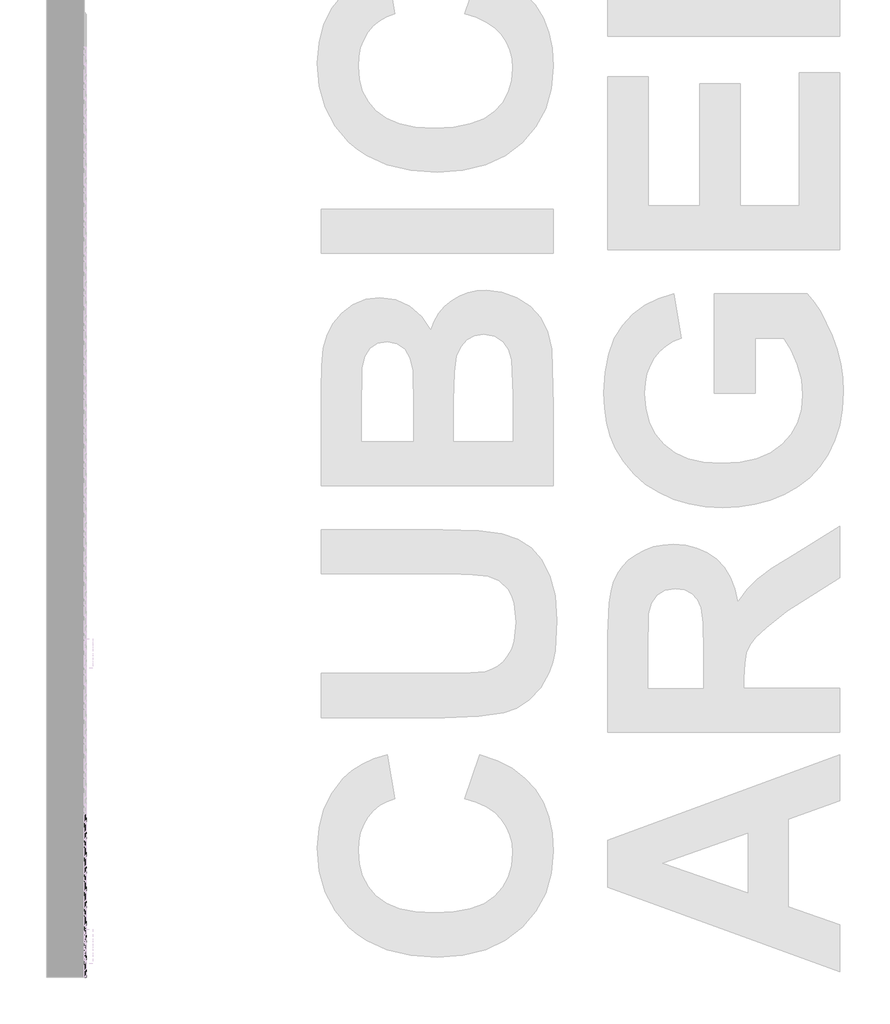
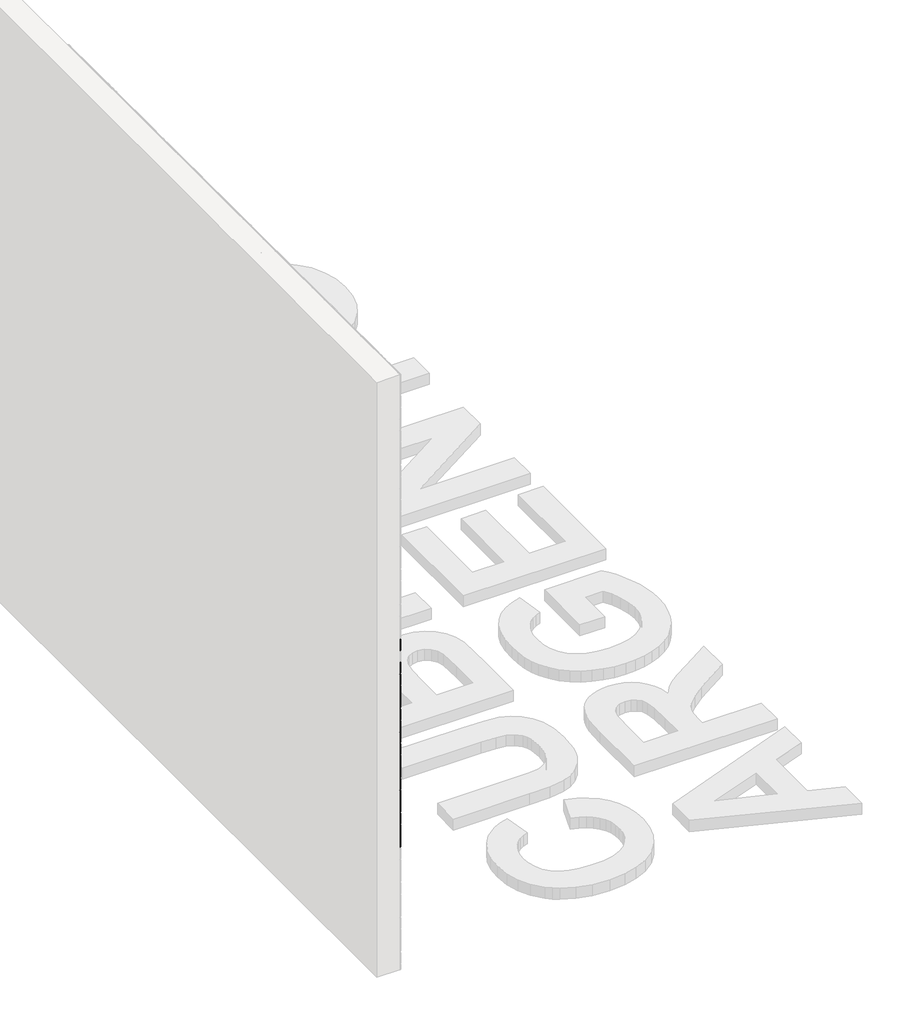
# One storey, part 2 of 121: 145 proxies.
"""IFC4 building model written with IfcOpenShell, lengths in millimetres."""

from ifc_helpers import new_model, si_unit, origin, place, context, project, spatial, transform, mapped, element, save
from components import generic_models_b2b2c5c1, generic_models_9bf73f6f, generic_models_5d175859, generic_models_45888c4d

model = new_model("IFC4")

# Units and contexts
model_context = context("Model", 3, world=origin())
ifc_project = project(units=[si_unit("LENGTHUNIT", "METRE", prefix="MILLI")], contexts=[model_context])

# Site, building, storey
site = spatial("IfcSite", under=ifc_project)
building = spatial("IfcBuilding", under=site)
storey = spatial("IfcBuildingStorey", under=building, Name="PORTOBELLO - SHOWROOM", Elevation=0.0)

# Proxies
placement = place(None, origin())
generic_models_shape = generic_models_b2b2c5c1(model_context)
element("IfcBuildingElementProxy", 1, Name="PBSHOP - CUBICA ARGENTO 4,8X8,3 : CUBICA ARGENTO - POSIÇÃO 01", ObjectType="PBSHOP - CUBICA ARGENTO 4,8X8,3 : CUBICA ARGENTO - POSIÇÃO 01", at=placement, inside=storey, context=model_context, shape_type="MappedRepresentation", body=[
    mapped(generic_models_shape, transform((150369.5341846, -6403.4522544, 670.8992738), x_axis=(0.0, 1.0, 0.0), y_axis=(0.0, 0.0, 1.0), z_axis=(1.0, 0.0, 0.0))),
])
element("IfcBuildingElementProxy", 2, Name="PBSHOP - CUBICA ARGENTO 4,8X8,3 : CUBICA ARGENTO - POSIÇÃO 01", ObjectType="PBSHOP - CUBICA ARGENTO 4,8X8,3 : CUBICA ARGENTO - POSIÇÃO 01", at=placement, inside=storey, context=model_context, shape_type="MappedRepresentation", body=[
    mapped(generic_models_shape, transform((150369.5341846, -6312.6129852, 670.8992738), x_axis=(0.0, 1.0, 0.0), y_axis=(0.0, 0.0, 1.0), z_axis=(1.0, 0.0, 0.0))),
])
element("IfcBuildingElementProxy", 3, Name="PBSHOP - CUBICA ARGENTO 4,8X8,3 : CUBICA ARGENTO - POSIÇÃO 01", ObjectType="PBSHOP - CUBICA ARGENTO 4,8X8,3 : CUBICA ARGENTO - POSIÇÃO 01", at=placement, inside=storey, context=model_context, shape_type="MappedRepresentation", body=[
    mapped(generic_models_shape, transform((150369.5341846, -6221.7737159, 670.8992738), x_axis=(0.0, 1.0, 0.0), y_axis=(0.0, 0.0, 1.0), z_axis=(1.0, 0.0, 0.0))),
])
element("IfcBuildingElementProxy", 4, Name="PBSHOP - CUBICA ARGENTO 4,8X8,3 : CUBICA ARGENTO - POSIÇÃO 01", ObjectType="PBSHOP - CUBICA ARGENTO 4,8X8,3 : CUBICA ARGENTO - POSIÇÃO 01", at=placement, inside=storey, context=model_context, shape_type="MappedRepresentation", body=[
    mapped(generic_models_shape, transform((150369.5341846, -6130.9344467, 670.8992738), x_axis=(0.0, 1.0, 0.0), y_axis=(0.0, 0.0, 1.0), z_axis=(1.0, 0.0, 0.0))),
])
element("IfcBuildingElementProxy", 5, Name="PBSHOP - CUBICA ARGENTO 4,8X8,3 : CUBICA ARGENTO - POSIÇÃO 01", ObjectType="PBSHOP - CUBICA ARGENTO 4,8X8,3 : CUBICA ARGENTO - POSIÇÃO 01", at=placement, inside=storey, context=model_context, shape_type="MappedRepresentation", body=[
    mapped(generic_models_shape, transform((150369.5341846, -6040.0951775, 670.8992738), x_axis=(0.0, 1.0, 0.0), y_axis=(0.0, 0.0, 1.0), z_axis=(1.0, 0.0, 0.0))),
])
element("IfcBuildingElementProxy", 6, Name="PBSHOP - CUBICA ARGENTO 4,8X8,3 : CUBICA ARGENTO - POSIÇÃO 01", ObjectType="PBSHOP - CUBICA ARGENTO 4,8X8,3 : CUBICA ARGENTO - POSIÇÃO 01", at=placement, inside=storey, context=model_context, shape_type="MappedRepresentation", body=[
    mapped(generic_models_shape, transform((150369.5341846, -6358.0326198, 749.8339122), x_axis=(0.0, 1.0, 0.0), y_axis=(0.0, 0.0, 1.0), z_axis=(1.0, 0.0, 0.0))),
])
element("IfcBuildingElementProxy", 7, Name="PBSHOP - CUBICA ARGENTO 4,8X8,3 : CUBICA ARGENTO - POSIÇÃO 01", ObjectType="PBSHOP - CUBICA ARGENTO 4,8X8,3 : CUBICA ARGENTO - POSIÇÃO 01", at=placement, inside=storey, context=model_context, shape_type="MappedRepresentation", body=[
    mapped(generic_models_shape, transform((150369.5341846, -6267.1933506, 749.8339122), x_axis=(0.0, 1.0, 0.0), y_axis=(0.0, 0.0, 1.0), z_axis=(1.0, 0.0, 0.0))),
])
element("IfcBuildingElementProxy", 8, Name="PBSHOP - CUBICA ARGENTO 4,8X8,3 : CUBICA ARGENTO - POSIÇÃO 01", ObjectType="PBSHOP - CUBICA ARGENTO 4,8X8,3 : CUBICA ARGENTO - POSIÇÃO 01", at=placement, inside=storey, context=model_context, shape_type="MappedRepresentation", body=[
    mapped(generic_models_shape, transform((150369.5341846, -6176.3540813, 749.8339122), x_axis=(0.0, 1.0, 0.0), y_axis=(0.0, 0.0, 1.0), z_axis=(1.0, 0.0, 0.0))),
])
element("IfcBuildingElementProxy", 9, Name="PBSHOP - CUBICA ARGENTO 4,8X8,3 : CUBICA ARGENTO - POSIÇÃO 01", ObjectType="PBSHOP - CUBICA ARGENTO 4,8X8,3 : CUBICA ARGENTO - POSIÇÃO 01", at=placement, inside=storey, context=model_context, shape_type="MappedRepresentation", body=[
    mapped(generic_models_shape, transform((150369.5341846, -6085.5148121, 749.8339122), x_axis=(0.0, 1.0, 0.0), y_axis=(0.0, 0.0, 1.0), z_axis=(1.0, 0.0, 0.0))),
])
element("IfcBuildingElementProxy", 10, Name="PBSHOP - CUBICA ARGENTO 4,8X8,3 : CUBICA ARGENTO - POSIÇÃO 01", ObjectType="PBSHOP - CUBICA ARGENTO 4,8X8,3 : CUBICA ARGENTO - POSIÇÃO 01", at=placement, inside=storey, context=model_context, shape_type="MappedRepresentation", body=[
    mapped(generic_models_shape, transform((150369.5341846, -6403.4522544, 828.7685506), x_axis=(0.0, 1.0, 0.0), y_axis=(0.0, 0.0, 1.0), z_axis=(1.0, 0.0, 0.0))),
])
element("IfcBuildingElementProxy", 11, Name="PBSHOP - CUBICA ARGENTO 4,8X8,3 : CUBICA ARGENTO - POSIÇÃO 01", ObjectType="PBSHOP - CUBICA ARGENTO 4,8X8,3 : CUBICA ARGENTO - POSIÇÃO 01", at=placement, inside=storey, context=model_context, shape_type="MappedRepresentation", body=[
    mapped(generic_models_shape, transform((150369.5341846, -6312.6129852, 828.7685506), x_axis=(0.0, 1.0, 0.0), y_axis=(0.0, 0.0, 1.0), z_axis=(1.0, 0.0, 0.0))),
])
element("IfcBuildingElementProxy", 12, Name="PBSHOP - CUBICA ARGENTO 4,8X8,3 : CUBICA ARGENTO - POSIÇÃO 01", ObjectType="PBSHOP - CUBICA ARGENTO 4,8X8,3 : CUBICA ARGENTO - POSIÇÃO 01", at=placement, inside=storey, context=model_context, shape_type="MappedRepresentation", body=[
    mapped(generic_models_shape, transform((150369.5341846, -6221.7737159, 828.7685506), x_axis=(0.0, 1.0, 0.0), y_axis=(0.0, 0.0, 1.0), z_axis=(1.0, 0.0, 0.0))),
])
element("IfcBuildingElementProxy", 13, Name="PBSHOP - CUBICA ARGENTO 4,8X8,3 : CUBICA ARGENTO - POSIÇÃO 01", ObjectType="PBSHOP - CUBICA ARGENTO 4,8X8,3 : CUBICA ARGENTO - POSIÇÃO 01", at=placement, inside=storey, context=model_context, shape_type="MappedRepresentation", body=[
    mapped(generic_models_shape, transform((150369.5341846, -6130.9344467, 828.7685506), x_axis=(0.0, 1.0, 0.0), y_axis=(0.0, 0.0, 1.0), z_axis=(1.0, 0.0, 0.0))),
])
element("IfcBuildingElementProxy", 14, Name="PBSHOP - CUBICA ARGENTO 4,8X8,3 : CUBICA ARGENTO - POSIÇÃO 01", ObjectType="PBSHOP - CUBICA ARGENTO 4,8X8,3 : CUBICA ARGENTO - POSIÇÃO 01", at=placement, inside=storey, context=model_context, shape_type="MappedRepresentation", body=[
    mapped(generic_models_shape, transform((150369.5341846, -6040.0951775, 828.7685506), x_axis=(0.0, 1.0, 0.0), y_axis=(0.0, 0.0, 1.0), z_axis=(1.0, 0.0, 0.0))),
])
element("IfcBuildingElementProxy", 15, Name="PBSHOP - CUBICA ARGENTO 4,8X8,3 : CUBICA ARGENTO - POSIÇÃO 01", ObjectType="PBSHOP - CUBICA ARGENTO 4,8X8,3 : CUBICA ARGENTO - POSIÇÃO 01", at=placement, inside=storey, context=model_context, shape_type="MappedRepresentation", body=[
    mapped(generic_models_shape, transform((150369.5341846, -6358.0326198, 907.7031889), x_axis=(0.0, 1.0, 0.0), y_axis=(0.0, 0.0, 1.0), z_axis=(1.0, 0.0, 0.0))),
])
element("IfcBuildingElementProxy", 16, Name="PBSHOP - CUBICA ARGENTO 4,8X8,3 : CUBICA ARGENTO - POSIÇÃO 01", ObjectType="PBSHOP - CUBICA ARGENTO 4,8X8,3 : CUBICA ARGENTO - POSIÇÃO 01", at=placement, inside=storey, context=model_context, shape_type="MappedRepresentation", body=[
    mapped(generic_models_shape, transform((150369.5341846, -6267.1933506, 907.7031889), x_axis=(0.0, 1.0, 0.0), y_axis=(0.0, 0.0, 1.0), z_axis=(1.0, 0.0, 0.0))),
])
element("IfcBuildingElementProxy", 17, Name="PBSHOP - CUBICA ARGENTO 4,8X8,3 : CUBICA ARGENTO - POSIÇÃO 01", ObjectType="PBSHOP - CUBICA ARGENTO 4,8X8,3 : CUBICA ARGENTO - POSIÇÃO 01", at=placement, inside=storey, context=model_context, shape_type="MappedRepresentation", body=[
    mapped(generic_models_shape, transform((150369.5341846, -6176.3540813, 907.7031889), x_axis=(0.0, 1.0, 0.0), y_axis=(0.0, 0.0, 1.0), z_axis=(1.0, 0.0, 0.0))),
])
element("IfcBuildingElementProxy", 18, Name="PBSHOP - CUBICA ARGENTO 4,8X8,3 : CUBICA ARGENTO - POSIÇÃO 01", ObjectType="PBSHOP - CUBICA ARGENTO 4,8X8,3 : CUBICA ARGENTO - POSIÇÃO 01", at=placement, inside=storey, context=model_context, shape_type="MappedRepresentation", body=[
    mapped(generic_models_shape, transform((150369.5341846, -6085.5148121, 907.7031889), x_axis=(0.0, 1.0, 0.0), y_axis=(0.0, 0.0, 1.0), z_axis=(1.0, 0.0, 0.0))),
])
element("IfcBuildingElementProxy", 19, Name="PBSHOP - CUBICA ARGENTO 4,8X8,3 : CUBICA ARGENTO - POSIÇÃO 01", ObjectType="PBSHOP - CUBICA ARGENTO 4,8X8,3 : CUBICA ARGENTO - POSIÇÃO 01", at=placement, inside=storey, context=model_context, shape_type="MappedRepresentation", body=[
    mapped(generic_models_shape, transform((150369.5341846, -6403.4522544, 986.6378273), x_axis=(0.0, 1.0, 0.0), y_axis=(0.0, 0.0, 1.0), z_axis=(1.0, 0.0, 0.0))),
])
element("IfcBuildingElementProxy", 20, Name="PBSHOP - CUBICA ARGENTO 4,8X8,3 : CUBICA ARGENTO - POSIÇÃO 01", ObjectType="PBSHOP - CUBICA ARGENTO 4,8X8,3 : CUBICA ARGENTO - POSIÇÃO 01", at=placement, inside=storey, context=model_context, shape_type="MappedRepresentation", body=[
    mapped(generic_models_shape, transform((150369.5341846, -6312.6129852, 986.6378273), x_axis=(0.0, 1.0, 0.0), y_axis=(0.0, 0.0, 1.0), z_axis=(1.0, 0.0, 0.0))),
])
element("IfcBuildingElementProxy", 21, Name="PBSHOP - CUBICA ARGENTO 4,8X8,3 : CUBICA ARGENTO - POSIÇÃO 01", ObjectType="PBSHOP - CUBICA ARGENTO 4,8X8,3 : CUBICA ARGENTO - POSIÇÃO 01", at=placement, inside=storey, context=model_context, shape_type="MappedRepresentation", body=[
    mapped(generic_models_shape, transform((150369.5341846, -6221.7737159, 986.6378273), x_axis=(0.0, 1.0, 0.0), y_axis=(0.0, 0.0, 1.0), z_axis=(1.0, 0.0, 0.0))),
])
element("IfcBuildingElementProxy", 22, Name="PBSHOP - CUBICA ARGENTO 4,8X8,3 : CUBICA ARGENTO - POSIÇÃO 01", ObjectType="PBSHOP - CUBICA ARGENTO 4,8X8,3 : CUBICA ARGENTO - POSIÇÃO 01", at=placement, inside=storey, context=model_context, shape_type="MappedRepresentation", body=[
    mapped(generic_models_shape, transform((150369.5341846, -6130.9344467, 986.6378273), x_axis=(0.0, 1.0, 0.0), y_axis=(0.0, 0.0, 1.0), z_axis=(1.0, 0.0, 0.0))),
])
element("IfcBuildingElementProxy", 23, Name="PBSHOP - CUBICA ARGENTO 4,8X8,3 : CUBICA ARGENTO - POSIÇÃO 01", ObjectType="PBSHOP - CUBICA ARGENTO 4,8X8,3 : CUBICA ARGENTO - POSIÇÃO 01", at=placement, inside=storey, context=model_context, shape_type="MappedRepresentation", body=[
    mapped(generic_models_shape, transform((150369.5341846, -6040.0951775, 986.6378273), x_axis=(0.0, 1.0, 0.0), y_axis=(0.0, 0.0, 1.0), z_axis=(1.0, 0.0, 0.0))),
])
element("IfcBuildingElementProxy", 24, Name="PBSHOP - CUBICA ARGENTO 4,8X8,3 : CUBICA ARGENTO - POSIÇÃO 01", ObjectType="PBSHOP - CUBICA ARGENTO 4,8X8,3 : CUBICA ARGENTO - POSIÇÃO 01", at=placement, inside=storey, context=model_context, shape_type="MappedRepresentation", body=[
    mapped(generic_models_shape, transform((150369.5341846, -6358.0326198, 1065.5724657), x_axis=(0.0, 1.0, 0.0), y_axis=(0.0, 0.0, 1.0), z_axis=(1.0, 0.0, 0.0))),
])
element("IfcBuildingElementProxy", 25, Name="PBSHOP - CUBICA ARGENTO 4,8X8,3 : CUBICA ARGENTO - POSIÇÃO 01", ObjectType="PBSHOP - CUBICA ARGENTO 4,8X8,3 : CUBICA ARGENTO - POSIÇÃO 01", at=placement, inside=storey, context=model_context, shape_type="MappedRepresentation", body=[
    mapped(generic_models_shape, transform((150369.5341846, -6267.1933506, 1065.5724657), x_axis=(0.0, 1.0, 0.0), y_axis=(0.0, 0.0, 1.0), z_axis=(1.0, 0.0, 0.0))),
])
element("IfcBuildingElementProxy", 26, Name="PBSHOP - CUBICA ARGENTO 4,8X8,3 : CUBICA ARGENTO - POSIÇÃO 01", ObjectType="PBSHOP - CUBICA ARGENTO 4,8X8,3 : CUBICA ARGENTO - POSIÇÃO 01", at=placement, inside=storey, context=model_context, shape_type="MappedRepresentation", body=[
    mapped(generic_models_shape, transform((150369.5341846, -6176.3540813, 1065.5724657), x_axis=(0.0, 1.0, 0.0), y_axis=(0.0, 0.0, 1.0), z_axis=(1.0, 0.0, 0.0))),
])
element("IfcBuildingElementProxy", 27, Name="PBSHOP - CUBICA ARGENTO 4,8X8,3 : CUBICA ARGENTO - POSIÇÃO 01", ObjectType="PBSHOP - CUBICA ARGENTO 4,8X8,3 : CUBICA ARGENTO - POSIÇÃO 01", at=placement, inside=storey, context=model_context, shape_type="MappedRepresentation", body=[
    mapped(generic_models_shape, transform((150369.5341846, -6085.5148121, 1065.5724657), x_axis=(0.0, 1.0, 0.0), y_axis=(0.0, 0.0, 1.0), z_axis=(1.0, 0.0, 0.0))),
])
element("IfcBuildingElementProxy", 28, Name="PBSHOP - CUBICA ARGENTO 4,8X8,3 : CUBICA ARGENTO - POSIÇÃO 01", ObjectType="PBSHOP - CUBICA ARGENTO 4,8X8,3 : CUBICA ARGENTO - POSIÇÃO 01", at=placement, inside=storey, context=model_context, shape_type="MappedRepresentation", body=[
    mapped(generic_models_shape, transform((150369.5341846, -6403.4522544, 1144.507104), x_axis=(0.0, 1.0, 0.0), y_axis=(0.0, 0.0, 1.0), z_axis=(1.0, 0.0, 0.0))),
])
element("IfcBuildingElementProxy", 29, Name="PBSHOP - CUBICA ARGENTO 4,8X8,3 : CUBICA ARGENTO - POSIÇÃO 01", ObjectType="PBSHOP - CUBICA ARGENTO 4,8X8,3 : CUBICA ARGENTO - POSIÇÃO 01", at=placement, inside=storey, context=model_context, shape_type="MappedRepresentation", body=[
    mapped(generic_models_shape, transform((150369.5341846, -6312.6129852, 1144.507104), x_axis=(0.0, 1.0, 0.0), y_axis=(0.0, 0.0, 1.0), z_axis=(1.0, 0.0, 0.0))),
])
element("IfcBuildingElementProxy", 30, Name="PBSHOP - CUBICA ARGENTO 4,8X8,3 : CUBICA ARGENTO - POSIÇÃO 01", ObjectType="PBSHOP - CUBICA ARGENTO 4,8X8,3 : CUBICA ARGENTO - POSIÇÃO 01", at=placement, inside=storey, context=model_context, shape_type="MappedRepresentation", body=[
    mapped(generic_models_shape, transform((150369.5341846, -6221.7737159, 1144.507104), x_axis=(0.0, 1.0, 0.0), y_axis=(0.0, 0.0, 1.0), z_axis=(1.0, 0.0, 0.0))),
])
element("IfcBuildingElementProxy", 31, Name="PBSHOP - CUBICA ARGENTO 4,8X8,3 : CUBICA ARGENTO - POSIÇÃO 01", ObjectType="PBSHOP - CUBICA ARGENTO 4,8X8,3 : CUBICA ARGENTO - POSIÇÃO 01", at=placement, inside=storey, context=model_context, shape_type="MappedRepresentation", body=[
    mapped(generic_models_shape, transform((150369.5341846, -6130.9344467, 1144.507104), x_axis=(0.0, 1.0, 0.0), y_axis=(0.0, 0.0, 1.0), z_axis=(1.0, 0.0, 0.0))),
])
element("IfcBuildingElementProxy", 32, Name="PBSHOP - CUBICA ARGENTO 4,8X8,3 : CUBICA ARGENTO - POSIÇÃO 01", ObjectType="PBSHOP - CUBICA ARGENTO 4,8X8,3 : CUBICA ARGENTO - POSIÇÃO 01", at=placement, inside=storey, context=model_context, shape_type="MappedRepresentation", body=[
    mapped(generic_models_shape, transform((150369.5341846, -6040.0951775, 1144.507104), x_axis=(0.0, 1.0, 0.0), y_axis=(0.0, 0.0, 1.0), z_axis=(1.0, 0.0, 0.0))),
])
element("IfcBuildingElementProxy", 33, Name="PBSHOP - CUBICA ARGENTO 4,8X8,3 : CUBICA ARGENTO - POSIÇÃO 01", ObjectType="PBSHOP - CUBICA ARGENTO 4,8X8,3 : CUBICA ARGENTO - POSIÇÃO 01", at=placement, inside=storey, context=model_context, shape_type="MappedRepresentation", body=[
    mapped(generic_models_shape, transform((150369.5341846, -6358.0326198, 1223.4417424), x_axis=(0.0, 1.0, 0.0), y_axis=(0.0, 0.0, 1.0), z_axis=(1.0, 0.0, 0.0))),
])
element("IfcBuildingElementProxy", 34, Name="PBSHOP - CUBICA ARGENTO 4,8X8,3 : CUBICA ARGENTO - POSIÇÃO 01", ObjectType="PBSHOP - CUBICA ARGENTO 4,8X8,3 : CUBICA ARGENTO - POSIÇÃO 01", at=placement, inside=storey, context=model_context, shape_type="MappedRepresentation", body=[
    mapped(generic_models_shape, transform((150369.5341846, -6267.1933506, 1223.4417424), x_axis=(0.0, 1.0, 0.0), y_axis=(0.0, 0.0, 1.0), z_axis=(1.0, 0.0, 0.0))),
])
element("IfcBuildingElementProxy", 35, Name="PBSHOP - CUBICA ARGENTO 4,8X8,3 : CUBICA ARGENTO - POSIÇÃO 01", ObjectType="PBSHOP - CUBICA ARGENTO 4,8X8,3 : CUBICA ARGENTO - POSIÇÃO 01", at=placement, inside=storey, context=model_context, shape_type="MappedRepresentation", body=[
    mapped(generic_models_shape, transform((150369.5341846, -6176.3540813, 1223.4417424), x_axis=(0.0, 1.0, 0.0), y_axis=(0.0, 0.0, 1.0), z_axis=(1.0, 0.0, 0.0))),
])
element("IfcBuildingElementProxy", 36, Name="PBSHOP - CUBICA ARGENTO 4,8X8,3 : CUBICA ARGENTO - POSIÇÃO 01", ObjectType="PBSHOP - CUBICA ARGENTO 4,8X8,3 : CUBICA ARGENTO - POSIÇÃO 01", at=placement, inside=storey, context=model_context, shape_type="MappedRepresentation", body=[
    mapped(generic_models_shape, transform((150369.5341846, -6085.5148121, 1223.4417424), x_axis=(0.0, 1.0, 0.0), y_axis=(0.0, 0.0, 1.0), z_axis=(1.0, 0.0, 0.0))),
])
element("IfcBuildingElementProxy", 37, Name="PBSHOP - CUBICA ARGENTO 4,8X8,3 : CUBICA ARGENTO - POSIÇÃO 01", ObjectType="PBSHOP - CUBICA ARGENTO 4,8X8,3 : CUBICA ARGENTO - POSIÇÃO 01", at=placement, inside=storey, context=model_context, shape_type="MappedRepresentation", body=[
    mapped(generic_models_shape, transform((150369.5341846, -6403.4522544, 1302.3763808), x_axis=(0.0, 1.0, 0.0), y_axis=(0.0, 0.0, 1.0), z_axis=(1.0, 0.0, 0.0))),
])
element("IfcBuildingElementProxy", 38, Name="PBSHOP - CUBICA ARGENTO 4,8X8,3 : CUBICA ARGENTO - POSIÇÃO 01", ObjectType="PBSHOP - CUBICA ARGENTO 4,8X8,3 : CUBICA ARGENTO - POSIÇÃO 01", at=placement, inside=storey, context=model_context, shape_type="MappedRepresentation", body=[
    mapped(generic_models_shape, transform((150369.5341846, -6312.6129852, 1302.3763808), x_axis=(0.0, 1.0, 0.0), y_axis=(0.0, 0.0, 1.0), z_axis=(1.0, 0.0, 0.0))),
])
element("IfcBuildingElementProxy", 39, Name="PBSHOP - CUBICA ARGENTO 4,8X8,3 : CUBICA ARGENTO - POSIÇÃO 01", ObjectType="PBSHOP - CUBICA ARGENTO 4,8X8,3 : CUBICA ARGENTO - POSIÇÃO 01", at=placement, inside=storey, context=model_context, shape_type="MappedRepresentation", body=[
    mapped(generic_models_shape, transform((150369.5341846, -6221.7737159, 1302.3763808), x_axis=(0.0, 1.0, 0.0), y_axis=(0.0, 0.0, 1.0), z_axis=(1.0, 0.0, 0.0))),
])
element("IfcBuildingElementProxy", 40, Name="PBSHOP - CUBICA ARGENTO 4,8X8,3 : CUBICA ARGENTO - POSIÇÃO 01", ObjectType="PBSHOP - CUBICA ARGENTO 4,8X8,3 : CUBICA ARGENTO - POSIÇÃO 01", at=placement, inside=storey, context=model_context, shape_type="MappedRepresentation", body=[
    mapped(generic_models_shape, transform((150369.5341846, -6130.9344467, 1302.3763808), x_axis=(0.0, 1.0, 0.0), y_axis=(0.0, 0.0, 1.0), z_axis=(1.0, 0.0, 0.0))),
])
element("IfcBuildingElementProxy", 41, Name="PBSHOP - CUBICA ARGENTO 4,8X8,3 : CUBICA ARGENTO - POSIÇÃO 01", ObjectType="PBSHOP - CUBICA ARGENTO 4,8X8,3 : CUBICA ARGENTO - POSIÇÃO 01", at=placement, inside=storey, context=model_context, shape_type="MappedRepresentation", body=[
    mapped(generic_models_shape, transform((150369.5341846, -6040.0951775, 1302.3763808), x_axis=(0.0, 1.0, 0.0), y_axis=(0.0, 0.0, 1.0), z_axis=(1.0, 0.0, 0.0))),
])
element("IfcBuildingElementProxy", 42, Name="PBSHOP - CUBICA ARGENTO 4,8X8,3 : CUBICA ARGENTO - POSIÇÃO 01", ObjectType="PBSHOP - CUBICA ARGENTO 4,8X8,3 : CUBICA ARGENTO - POSIÇÃO 01", at=placement, inside=storey, context=model_context, shape_type="MappedRepresentation", body=[
    mapped(generic_models_shape, transform((150369.5341846, -6358.0326198, 1381.3110192), x_axis=(0.0, 1.0, 0.0), y_axis=(0.0, 0.0, 1.0), z_axis=(1.0, 0.0, 0.0))),
])
element("IfcBuildingElementProxy", 43, Name="PBSHOP - CUBICA ARGENTO 4,8X8,3 : CUBICA ARGENTO - POSIÇÃO 01", ObjectType="PBSHOP - CUBICA ARGENTO 4,8X8,3 : CUBICA ARGENTO - POSIÇÃO 01", at=placement, inside=storey, context=model_context, shape_type="MappedRepresentation", body=[
    mapped(generic_models_shape, transform((150369.5341846, -6267.1933506, 1381.3110192), x_axis=(0.0, 1.0, 0.0), y_axis=(0.0, 0.0, 1.0), z_axis=(1.0, 0.0, 0.0))),
])
element("IfcBuildingElementProxy", 44, Name="PBSHOP - CUBICA ARGENTO 4,8X8,3 : CUBICA ARGENTO - POSIÇÃO 01", ObjectType="PBSHOP - CUBICA ARGENTO 4,8X8,3 : CUBICA ARGENTO - POSIÇÃO 01", at=placement, inside=storey, context=model_context, shape_type="MappedRepresentation", body=[
    mapped(generic_models_shape, transform((150369.5341846, -6176.3540813, 1381.3110192), x_axis=(0.0, 1.0, 0.0), y_axis=(0.0, 0.0, 1.0), z_axis=(1.0, 0.0, 0.0))),
])
element("IfcBuildingElementProxy", 45, Name="PBSHOP - CUBICA ARGENTO 4,8X8,3 : CUBICA ARGENTO - POSIÇÃO 01", ObjectType="PBSHOP - CUBICA ARGENTO 4,8X8,3 : CUBICA ARGENTO - POSIÇÃO 01", at=placement, inside=storey, context=model_context, shape_type="MappedRepresentation", body=[
    mapped(generic_models_shape, transform((150369.5341846, -6085.5148121, 1381.3110192), x_axis=(0.0, 1.0, 0.0), y_axis=(0.0, 0.0, 1.0), z_axis=(1.0, 0.0, 0.0))),
])
element("IfcBuildingElementProxy", 46, Name="PBSHOP - CUBICA ARGENTO 4,8X8,3 : CUBICA ARGENTO - POSIÇÃO 01", ObjectType="PBSHOP - CUBICA ARGENTO 4,8X8,3 : CUBICA ARGENTO - POSIÇÃO 01", at=placement, inside=storey, context=model_context, shape_type="MappedRepresentation", body=[
    mapped(generic_models_shape, transform((150369.5341846, -6403.4522544, 1460.2456575), x_axis=(0.0, 1.0, 0.0), y_axis=(0.0, 0.0, 1.0), z_axis=(1.0, 0.0, 0.0))),
])
generic_models_2_shape = generic_models_9bf73f6f(model_context)
element("IfcBuildingElementProxy", 47, Name="PBSHOP - CUBICA ARGENTO 4,8X8,3 : CUBICA ARGENTO - POSIÇÃO 03", ObjectType="PBSHOP - CUBICA ARGENTO 4,8X8,3 : CUBICA ARGENTO - POSIÇÃO 03", at=placement, inside=storey, context=model_context, shape_type="MappedRepresentation", body=[
    mapped(generic_models_2_shape, transform((150369.5341846, -6108.2224702, 552.4561058), x_axis=(0.0, 1.0, 0.0), y_axis=(0.0, 0.0, 1.0), z_axis=(1.0, 0.0, 0.0))),
])
element("IfcBuildingElementProxy", 48, Name="PBSHOP - CUBICA ARGENTO 4,8X8,3 : CUBICA ARGENTO - POSIÇÃO 03", ObjectType="PBSHOP - CUBICA ARGENTO 4,8X8,3 : CUBICA ARGENTO - POSIÇÃO 03", at=placement, inside=storey, context=model_context, shape_type="MappedRepresentation", body=[
    mapped(generic_models_2_shape, transform((150369.5341846, -6017.383201, 552.4561058), x_axis=(0.0, 1.0, 0.0), y_axis=(0.0, 0.0, 1.0), z_axis=(1.0, 0.0, 0.0))),
])
element("IfcBuildingElementProxy", 49, Name="PBSHOP - CUBICA ARGENTO 4,8X8,3 : CUBICA ARGENTO - POSIÇÃO 03", ObjectType="PBSHOP - CUBICA ARGENTO 4,8X8,3 : CUBICA ARGENTO - POSIÇÃO 03", at=placement, inside=storey, context=model_context, shape_type="MappedRepresentation", body=[
    mapped(generic_models_2_shape, transform((150369.5341846, -6335.3206433, 631.3907442), x_axis=(0.0, 1.0, 0.0), y_axis=(0.0, 0.0, 1.0), z_axis=(1.0, 0.0, 0.0))),
])
element("IfcBuildingElementProxy", 50, Name="PBSHOP - CUBICA ARGENTO 4,8X8,3 : CUBICA ARGENTO - POSIÇÃO 03", ObjectType="PBSHOP - CUBICA ARGENTO 4,8X8,3 : CUBICA ARGENTO - POSIÇÃO 03", at=placement, inside=storey, context=model_context, shape_type="MappedRepresentation", body=[
    mapped(generic_models_2_shape, transform((150369.5341846, -6244.4813741, 631.3907442), x_axis=(0.0, 1.0, 0.0), y_axis=(0.0, 0.0, 1.0), z_axis=(1.0, 0.0, 0.0))),
])
element("IfcBuildingElementProxy", 51, Name="PBSHOP - CUBICA ARGENTO 4,8X8,3 : CUBICA ARGENTO - POSIÇÃO 03", ObjectType="PBSHOP - CUBICA ARGENTO 4,8X8,3 : CUBICA ARGENTO - POSIÇÃO 03", at=placement, inside=storey, context=model_context, shape_type="MappedRepresentation", body=[
    mapped(generic_models_2_shape, transform((150369.5341846, -6153.6421048, 631.3907442), x_axis=(0.0, 1.0, 0.0), y_axis=(0.0, 0.0, 1.0), z_axis=(1.0, 0.0, 0.0))),
])
element("IfcBuildingElementProxy", 52, Name="PBSHOP - CUBICA ARGENTO 4,8X8,3 : CUBICA ARGENTO - POSIÇÃO 03", ObjectType="PBSHOP - CUBICA ARGENTO 4,8X8,3 : CUBICA ARGENTO - POSIÇÃO 03", at=placement, inside=storey, context=model_context, shape_type="MappedRepresentation", body=[
    mapped(generic_models_2_shape, transform((150369.5341846, -6062.8028356, 631.3907442), x_axis=(0.0, 1.0, 0.0), y_axis=(0.0, 0.0, 1.0), z_axis=(1.0, 0.0, 0.0))),
])
element("IfcBuildingElementProxy", 53, Name="PBSHOP - CUBICA ARGENTO 4,8X8,3 : CUBICA ARGENTO - POSIÇÃO 03", ObjectType="PBSHOP - CUBICA ARGENTO 4,8X8,3 : CUBICA ARGENTO - POSIÇÃO 03", at=placement, inside=storey, context=model_context, shape_type="MappedRepresentation", body=[
    mapped(generic_models_2_shape, transform((150369.5341846, -6380.740278, 710.3253826), x_axis=(0.0, 1.0, 0.0), y_axis=(0.0, 0.0, 1.0), z_axis=(1.0, 0.0, 0.0))),
])
element("IfcBuildingElementProxy", 54, Name="PBSHOP - CUBICA ARGENTO 4,8X8,3 : CUBICA ARGENTO - POSIÇÃO 03", ObjectType="PBSHOP - CUBICA ARGENTO 4,8X8,3 : CUBICA ARGENTO - POSIÇÃO 03", at=placement, inside=storey, context=model_context, shape_type="MappedRepresentation", body=[
    mapped(generic_models_2_shape, transform((150369.5341846, -6289.9010087, 710.3253826), x_axis=(0.0, 1.0, 0.0), y_axis=(0.0, 0.0, 1.0), z_axis=(1.0, 0.0, 0.0))),
])
element("IfcBuildingElementProxy", 55, Name="PBSHOP - CUBICA ARGENTO 4,8X8,3 : CUBICA ARGENTO - POSIÇÃO 03", ObjectType="PBSHOP - CUBICA ARGENTO 4,8X8,3 : CUBICA ARGENTO - POSIÇÃO 03", at=placement, inside=storey, context=model_context, shape_type="MappedRepresentation", body=[
    mapped(generic_models_2_shape, transform((150369.5341846, -6199.0617395, 710.3253826), x_axis=(0.0, 1.0, 0.0), y_axis=(0.0, 0.0, 1.0), z_axis=(1.0, 0.0, 0.0))),
])
element("IfcBuildingElementProxy", 56, Name="PBSHOP - CUBICA ARGENTO 4,8X8,3 : CUBICA ARGENTO - POSIÇÃO 03", ObjectType="PBSHOP - CUBICA ARGENTO 4,8X8,3 : CUBICA ARGENTO - POSIÇÃO 03", at=placement, inside=storey, context=model_context, shape_type="MappedRepresentation", body=[
    mapped(generic_models_2_shape, transform((150369.5341846, -6108.2224702, 710.3253826), x_axis=(0.0, 1.0, 0.0), y_axis=(0.0, 0.0, 1.0), z_axis=(1.0, 0.0, 0.0))),
])
element("IfcBuildingElementProxy", 57, Name="PBSHOP - CUBICA ARGENTO 4,8X8,3 : CUBICA ARGENTO - POSIÇÃO 03", ObjectType="PBSHOP - CUBICA ARGENTO 4,8X8,3 : CUBICA ARGENTO - POSIÇÃO 03", at=placement, inside=storey, context=model_context, shape_type="MappedRepresentation", body=[
    mapped(generic_models_2_shape, transform((150369.5341846, -6017.383201, 710.3253826), x_axis=(0.0, 1.0, 0.0), y_axis=(0.0, 0.0, 1.0), z_axis=(1.0, 0.0, 0.0))),
])
element("IfcBuildingElementProxy", 58, Name="PBSHOP - CUBICA ARGENTO 4,8X8,3 : CUBICA ARGENTO - POSIÇÃO 03", ObjectType="PBSHOP - CUBICA ARGENTO 4,8X8,3 : CUBICA ARGENTO - POSIÇÃO 03", at=placement, inside=storey, context=model_context, shape_type="MappedRepresentation", body=[
    mapped(generic_models_2_shape, transform((150369.5341846, -6335.3206433, 789.2600209), x_axis=(0.0, 1.0, 0.0), y_axis=(0.0, 0.0, 1.0), z_axis=(1.0, 0.0, 0.0))),
])
element("IfcBuildingElementProxy", 59, Name="PBSHOP - CUBICA ARGENTO 4,8X8,3 : CUBICA ARGENTO - POSIÇÃO 03", ObjectType="PBSHOP - CUBICA ARGENTO 4,8X8,3 : CUBICA ARGENTO - POSIÇÃO 03", at=placement, inside=storey, context=model_context, shape_type="MappedRepresentation", body=[
    mapped(generic_models_2_shape, transform((150369.5341846, -6244.4813741, 789.2600209), x_axis=(0.0, 1.0, 0.0), y_axis=(0.0, 0.0, 1.0), z_axis=(1.0, 0.0, 0.0))),
])
element("IfcBuildingElementProxy", 60, Name="PBSHOP - CUBICA ARGENTO 4,8X8,3 : CUBICA ARGENTO - POSIÇÃO 03", ObjectType="PBSHOP - CUBICA ARGENTO 4,8X8,3 : CUBICA ARGENTO - POSIÇÃO 03", at=placement, inside=storey, context=model_context, shape_type="MappedRepresentation", body=[
    mapped(generic_models_2_shape, transform((150369.5341846, -6153.6421048, 789.2600209), x_axis=(0.0, 1.0, 0.0), y_axis=(0.0, 0.0, 1.0), z_axis=(1.0, 0.0, 0.0))),
])
element("IfcBuildingElementProxy", 61, Name="PBSHOP - CUBICA ARGENTO 4,8X8,3 : CUBICA ARGENTO - POSIÇÃO 03", ObjectType="PBSHOP - CUBICA ARGENTO 4,8X8,3 : CUBICA ARGENTO - POSIÇÃO 03", at=placement, inside=storey, context=model_context, shape_type="MappedRepresentation", body=[
    mapped(generic_models_2_shape, transform((150369.5341846, -6062.8028356, 789.2600209), x_axis=(0.0, 1.0, 0.0), y_axis=(0.0, 0.0, 1.0), z_axis=(1.0, 0.0, 0.0))),
])
element("IfcBuildingElementProxy", 62, Name="PBSHOP - CUBICA ARGENTO 4,8X8,3 : CUBICA ARGENTO - POSIÇÃO 03", ObjectType="PBSHOP - CUBICA ARGENTO 4,8X8,3 : CUBICA ARGENTO - POSIÇÃO 03", at=placement, inside=storey, context=model_context, shape_type="MappedRepresentation", body=[
    mapped(generic_models_2_shape, transform((150369.5341846, -6380.740278, 868.1946593), x_axis=(0.0, 1.0, 0.0), y_axis=(0.0, 0.0, 1.0), z_axis=(1.0, 0.0, 0.0))),
])
element("IfcBuildingElementProxy", 63, Name="PBSHOP - CUBICA ARGENTO 4,8X8,3 : CUBICA ARGENTO - POSIÇÃO 03", ObjectType="PBSHOP - CUBICA ARGENTO 4,8X8,3 : CUBICA ARGENTO - POSIÇÃO 03", at=placement, inside=storey, context=model_context, shape_type="MappedRepresentation", body=[
    mapped(generic_models_2_shape, transform((150369.5341846, -6289.9010087, 868.1946593), x_axis=(0.0, 1.0, 0.0), y_axis=(0.0, 0.0, 1.0), z_axis=(1.0, 0.0, 0.0))),
])
element("IfcBuildingElementProxy", 64, Name="PBSHOP - CUBICA ARGENTO 4,8X8,3 : CUBICA ARGENTO - POSIÇÃO 03", ObjectType="PBSHOP - CUBICA ARGENTO 4,8X8,3 : CUBICA ARGENTO - POSIÇÃO 03", at=placement, inside=storey, context=model_context, shape_type="MappedRepresentation", body=[
    mapped(generic_models_2_shape, transform((150369.5341846, -6199.0617395, 868.1946593), x_axis=(0.0, 1.0, 0.0), y_axis=(0.0, 0.0, 1.0), z_axis=(1.0, 0.0, 0.0))),
])
element("IfcBuildingElementProxy", 65, Name="PBSHOP - CUBICA ARGENTO 4,8X8,3 : CUBICA ARGENTO - POSIÇÃO 03", ObjectType="PBSHOP - CUBICA ARGENTO 4,8X8,3 : CUBICA ARGENTO - POSIÇÃO 03", at=placement, inside=storey, context=model_context, shape_type="MappedRepresentation", body=[
    mapped(generic_models_2_shape, transform((150369.5341846, -6108.2224702, 868.1946593), x_axis=(0.0, 1.0, 0.0), y_axis=(0.0, 0.0, 1.0), z_axis=(1.0, 0.0, 0.0))),
])
element("IfcBuildingElementProxy", 66, Name="PBSHOP - CUBICA ARGENTO 4,8X8,3 : CUBICA ARGENTO - POSIÇÃO 03", ObjectType="PBSHOP - CUBICA ARGENTO 4,8X8,3 : CUBICA ARGENTO - POSIÇÃO 03", at=placement, inside=storey, context=model_context, shape_type="MappedRepresentation", body=[
    mapped(generic_models_2_shape, transform((150369.5341846, -6017.383201, 868.1946593), x_axis=(0.0, 1.0, 0.0), y_axis=(0.0, 0.0, 1.0), z_axis=(1.0, 0.0, 0.0))),
])
element("IfcBuildingElementProxy", 67, Name="PBSHOP - CUBICA ARGENTO 4,8X8,3 : CUBICA ARGENTO - POSIÇÃO 03", ObjectType="PBSHOP - CUBICA ARGENTO 4,8X8,3 : CUBICA ARGENTO - POSIÇÃO 03", at=placement, inside=storey, context=model_context, shape_type="MappedRepresentation", body=[
    mapped(generic_models_2_shape, transform((150369.5341846, -6335.3206433, 947.1292977), x_axis=(0.0, 1.0, 0.0), y_axis=(0.0, 0.0, 1.0), z_axis=(1.0, 0.0, 0.0))),
])
element("IfcBuildingElementProxy", 68, Name="PBSHOP - CUBICA ARGENTO 4,8X8,3 : CUBICA ARGENTO - POSIÇÃO 03", ObjectType="PBSHOP - CUBICA ARGENTO 4,8X8,3 : CUBICA ARGENTO - POSIÇÃO 03", at=placement, inside=storey, context=model_context, shape_type="MappedRepresentation", body=[
    mapped(generic_models_2_shape, transform((150369.5341846, -6244.4813741, 947.1292977), x_axis=(0.0, 1.0, 0.0), y_axis=(0.0, 0.0, 1.0), z_axis=(1.0, 0.0, 0.0))),
])
element("IfcBuildingElementProxy", 69, Name="PBSHOP - CUBICA ARGENTO 4,8X8,3 : CUBICA ARGENTO - POSIÇÃO 03", ObjectType="PBSHOP - CUBICA ARGENTO 4,8X8,3 : CUBICA ARGENTO - POSIÇÃO 03", at=placement, inside=storey, context=model_context, shape_type="MappedRepresentation", body=[
    mapped(generic_models_2_shape, transform((150369.5341846, -6153.6421048, 947.1292977), x_axis=(0.0, 1.0, 0.0), y_axis=(0.0, 0.0, 1.0), z_axis=(1.0, 0.0, 0.0))),
])
element("IfcBuildingElementProxy", 70, Name="PBSHOP - CUBICA ARGENTO 4,8X8,3 : CUBICA ARGENTO - POSIÇÃO 03", ObjectType="PBSHOP - CUBICA ARGENTO 4,8X8,3 : CUBICA ARGENTO - POSIÇÃO 03", at=placement, inside=storey, context=model_context, shape_type="MappedRepresentation", body=[
    mapped(generic_models_2_shape, transform((150369.5341846, -6062.8028356, 947.1292977), x_axis=(0.0, 1.0, 0.0), y_axis=(0.0, 0.0, 1.0), z_axis=(1.0, 0.0, 0.0))),
])
element("IfcBuildingElementProxy", 71, Name="PBSHOP - CUBICA ARGENTO 4,8X8,3 : CUBICA ARGENTO - POSIÇÃO 03", ObjectType="PBSHOP - CUBICA ARGENTO 4,8X8,3 : CUBICA ARGENTO - POSIÇÃO 03", at=placement, inside=storey, context=model_context, shape_type="MappedRepresentation", body=[
    mapped(generic_models_2_shape, transform((150369.5341846, -6380.740278, 1026.0639361), x_axis=(0.0, 1.0, 0.0), y_axis=(0.0, 0.0, 1.0), z_axis=(1.0, 0.0, 0.0))),
])
element("IfcBuildingElementProxy", 72, Name="PBSHOP - CUBICA ARGENTO 4,8X8,3 : CUBICA ARGENTO - POSIÇÃO 03", ObjectType="PBSHOP - CUBICA ARGENTO 4,8X8,3 : CUBICA ARGENTO - POSIÇÃO 03", at=placement, inside=storey, context=model_context, shape_type="MappedRepresentation", body=[
    mapped(generic_models_2_shape, transform((150369.5341846, -6289.9010087, 1026.0639361), x_axis=(0.0, 1.0, 0.0), y_axis=(0.0, 0.0, 1.0), z_axis=(1.0, 0.0, 0.0))),
])
element("IfcBuildingElementProxy", 73, Name="PBSHOP - CUBICA ARGENTO 4,8X8,3 : CUBICA ARGENTO - POSIÇÃO 03", ObjectType="PBSHOP - CUBICA ARGENTO 4,8X8,3 : CUBICA ARGENTO - POSIÇÃO 03", at=placement, inside=storey, context=model_context, shape_type="MappedRepresentation", body=[
    mapped(generic_models_2_shape, transform((150369.5341846, -6199.0617395, 1026.0639361), x_axis=(0.0, 1.0, 0.0), y_axis=(0.0, 0.0, 1.0), z_axis=(1.0, 0.0, 0.0))),
])
element("IfcBuildingElementProxy", 74, Name="PBSHOP - CUBICA ARGENTO 4,8X8,3 : CUBICA ARGENTO - POSIÇÃO 03", ObjectType="PBSHOP - CUBICA ARGENTO 4,8X8,3 : CUBICA ARGENTO - POSIÇÃO 03", at=placement, inside=storey, context=model_context, shape_type="MappedRepresentation", body=[
    mapped(generic_models_2_shape, transform((150369.5341846, -6108.2224702, 1026.0639361), x_axis=(0.0, 1.0, 0.0), y_axis=(0.0, 0.0, 1.0), z_axis=(1.0, 0.0, 0.0))),
])
element("IfcBuildingElementProxy", 75, Name="PBSHOP - CUBICA ARGENTO 4,8X8,3 : CUBICA ARGENTO - POSIÇÃO 03", ObjectType="PBSHOP - CUBICA ARGENTO 4,8X8,3 : CUBICA ARGENTO - POSIÇÃO 03", at=placement, inside=storey, context=model_context, shape_type="MappedRepresentation", body=[
    mapped(generic_models_2_shape, transform((150369.5341846, -6017.383201, 1026.0639361), x_axis=(0.0, 1.0, 0.0), y_axis=(0.0, 0.0, 1.0), z_axis=(1.0, 0.0, 0.0))),
])
element("IfcBuildingElementProxy", 76, Name="PBSHOP - CUBICA ARGENTO 4,8X8,3 : CUBICA ARGENTO - POSIÇÃO 03", ObjectType="PBSHOP - CUBICA ARGENTO 4,8X8,3 : CUBICA ARGENTO - POSIÇÃO 03", at=placement, inside=storey, context=model_context, shape_type="MappedRepresentation", body=[
    mapped(generic_models_2_shape, transform((150369.5341846, -6335.3206433, 1104.9985744), x_axis=(0.0, 1.0, 0.0), y_axis=(0.0, 0.0, 1.0), z_axis=(1.0, 0.0, 0.0))),
])
element("IfcBuildingElementProxy", 77, Name="PBSHOP - CUBICA ARGENTO 4,8X8,3 : CUBICA ARGENTO - POSIÇÃO 03", ObjectType="PBSHOP - CUBICA ARGENTO 4,8X8,3 : CUBICA ARGENTO - POSIÇÃO 03", at=placement, inside=storey, context=model_context, shape_type="MappedRepresentation", body=[
    mapped(generic_models_2_shape, transform((150369.5341846, -6244.4813741, 1104.9985744), x_axis=(0.0, 1.0, 0.0), y_axis=(0.0, 0.0, 1.0), z_axis=(1.0, 0.0, 0.0))),
])
element("IfcBuildingElementProxy", 78, Name="PBSHOP - CUBICA ARGENTO 4,8X8,3 : CUBICA ARGENTO - POSIÇÃO 03", ObjectType="PBSHOP - CUBICA ARGENTO 4,8X8,3 : CUBICA ARGENTO - POSIÇÃO 03", at=placement, inside=storey, context=model_context, shape_type="MappedRepresentation", body=[
    mapped(generic_models_2_shape, transform((150369.5341846, -6153.6421048, 1104.9985744), x_axis=(0.0, 1.0, 0.0), y_axis=(0.0, 0.0, 1.0), z_axis=(1.0, 0.0, 0.0))),
])
element("IfcBuildingElementProxy", 79, Name="PBSHOP - CUBICA ARGENTO 4,8X8,3 : CUBICA ARGENTO - POSIÇÃO 03", ObjectType="PBSHOP - CUBICA ARGENTO 4,8X8,3 : CUBICA ARGENTO - POSIÇÃO 03", at=placement, inside=storey, context=model_context, shape_type="MappedRepresentation", body=[
    mapped(generic_models_2_shape, transform((150369.5341846, -6062.8028356, 1104.9985744), x_axis=(0.0, 1.0, 0.0), y_axis=(0.0, 0.0, 1.0), z_axis=(1.0, 0.0, 0.0))),
])
element("IfcBuildingElementProxy", 80, Name="PBSHOP - CUBICA ARGENTO 4,8X8,3 : CUBICA ARGENTO - POSIÇÃO 03", ObjectType="PBSHOP - CUBICA ARGENTO 4,8X8,3 : CUBICA ARGENTO - POSIÇÃO 03", at=placement, inside=storey, context=model_context, shape_type="MappedRepresentation", body=[
    mapped(generic_models_2_shape, transform((150369.5341846, -6380.740278, 1183.9332128), x_axis=(0.0, 1.0, 0.0), y_axis=(0.0, 0.0, 1.0), z_axis=(1.0, 0.0, 0.0))),
])
element("IfcBuildingElementProxy", 81, Name="PBSHOP - CUBICA ARGENTO 4,8X8,3 : CUBICA ARGENTO - POSIÇÃO 03", ObjectType="PBSHOP - CUBICA ARGENTO 4,8X8,3 : CUBICA ARGENTO - POSIÇÃO 03", at=placement, inside=storey, context=model_context, shape_type="MappedRepresentation", body=[
    mapped(generic_models_2_shape, transform((150369.5341846, -6289.9010087, 1183.9332128), x_axis=(0.0, 1.0, 0.0), y_axis=(0.0, 0.0, 1.0), z_axis=(1.0, 0.0, 0.0))),
])
element("IfcBuildingElementProxy", 82, Name="PBSHOP - CUBICA ARGENTO 4,8X8,3 : CUBICA ARGENTO - POSIÇÃO 03", ObjectType="PBSHOP - CUBICA ARGENTO 4,8X8,3 : CUBICA ARGENTO - POSIÇÃO 03", at=placement, inside=storey, context=model_context, shape_type="MappedRepresentation", body=[
    mapped(generic_models_2_shape, transform((150369.5341846, -6199.0617395, 1183.9332128), x_axis=(0.0, 1.0, 0.0), y_axis=(0.0, 0.0, 1.0), z_axis=(1.0, 0.0, 0.0))),
])
element("IfcBuildingElementProxy", 83, Name="PBSHOP - CUBICA ARGENTO 4,8X8,3 : CUBICA ARGENTO - POSIÇÃO 03", ObjectType="PBSHOP - CUBICA ARGENTO 4,8X8,3 : CUBICA ARGENTO - POSIÇÃO 03", at=placement, inside=storey, context=model_context, shape_type="MappedRepresentation", body=[
    mapped(generic_models_2_shape, transform((150369.5341846, -6108.2224702, 1183.9332128), x_axis=(0.0, 1.0, 0.0), y_axis=(0.0, 0.0, 1.0), z_axis=(1.0, 0.0, 0.0))),
])
element("IfcBuildingElementProxy", 84, Name="PBSHOP - CUBICA ARGENTO 4,8X8,3 : CUBICA ARGENTO - POSIÇÃO 03", ObjectType="PBSHOP - CUBICA ARGENTO 4,8X8,3 : CUBICA ARGENTO - POSIÇÃO 03", at=placement, inside=storey, context=model_context, shape_type="MappedRepresentation", body=[
    mapped(generic_models_2_shape, transform((150369.5341846, -6017.383201, 1183.9332128), x_axis=(0.0, 1.0, 0.0), y_axis=(0.0, 0.0, 1.0), z_axis=(1.0, 0.0, 0.0))),
])
element("IfcBuildingElementProxy", 85, Name="PBSHOP - CUBICA ARGENTO 4,8X8,3 : CUBICA ARGENTO - POSIÇÃO 03", ObjectType="PBSHOP - CUBICA ARGENTO 4,8X8,3 : CUBICA ARGENTO - POSIÇÃO 03", at=placement, inside=storey, context=model_context, shape_type="MappedRepresentation", body=[
    mapped(generic_models_2_shape, transform((150369.5341846, -6335.3206433, 1262.8678512), x_axis=(0.0, 1.0, 0.0), y_axis=(0.0, 0.0, 1.0), z_axis=(1.0, 0.0, 0.0))),
])
element("IfcBuildingElementProxy", 86, Name="PBSHOP - CUBICA ARGENTO 4,8X8,3 : CUBICA ARGENTO - POSIÇÃO 03", ObjectType="PBSHOP - CUBICA ARGENTO 4,8X8,3 : CUBICA ARGENTO - POSIÇÃO 03", at=placement, inside=storey, context=model_context, shape_type="MappedRepresentation", body=[
    mapped(generic_models_2_shape, transform((150369.5341846, -6244.4813741, 1262.8678512), x_axis=(0.0, 1.0, 0.0), y_axis=(0.0, 0.0, 1.0), z_axis=(1.0, 0.0, 0.0))),
])
element("IfcBuildingElementProxy", 87, Name="PBSHOP - CUBICA ARGENTO 4,8X8,3 : CUBICA ARGENTO - POSIÇÃO 03", ObjectType="PBSHOP - CUBICA ARGENTO 4,8X8,3 : CUBICA ARGENTO - POSIÇÃO 03", at=placement, inside=storey, context=model_context, shape_type="MappedRepresentation", body=[
    mapped(generic_models_2_shape, transform((150369.5341846, -6153.6421048, 1262.8678512), x_axis=(0.0, 1.0, 0.0), y_axis=(0.0, 0.0, 1.0), z_axis=(1.0, 0.0, 0.0))),
])
element("IfcBuildingElementProxy", 88, Name="PBSHOP - CUBICA ARGENTO 4,8X8,3 : CUBICA ARGENTO - POSIÇÃO 03", ObjectType="PBSHOP - CUBICA ARGENTO 4,8X8,3 : CUBICA ARGENTO - POSIÇÃO 03", at=placement, inside=storey, context=model_context, shape_type="MappedRepresentation", body=[
    mapped(generic_models_2_shape, transform((150369.5341846, -6062.8028356, 1262.8678512), x_axis=(0.0, 1.0, 0.0), y_axis=(0.0, 0.0, 1.0), z_axis=(1.0, 0.0, 0.0))),
])
element("IfcBuildingElementProxy", 89, Name="PBSHOP - CUBICA ARGENTO 4,8X8,3 : CUBICA ARGENTO - POSIÇÃO 03", ObjectType="PBSHOP - CUBICA ARGENTO 4,8X8,3 : CUBICA ARGENTO - POSIÇÃO 03", at=placement, inside=storey, context=model_context, shape_type="MappedRepresentation", body=[
    mapped(generic_models_2_shape, transform((150369.5341846, -6380.740278, 1341.8024896), x_axis=(0.0, 1.0, 0.0), y_axis=(0.0, 0.0, 1.0), z_axis=(1.0, 0.0, 0.0))),
])
element("IfcBuildingElementProxy", 90, Name="PBSHOP - CUBICA ARGENTO 4,8X8,3 : CUBICA ARGENTO - POSIÇÃO 03", ObjectType="PBSHOP - CUBICA ARGENTO 4,8X8,3 : CUBICA ARGENTO - POSIÇÃO 03", at=placement, inside=storey, context=model_context, shape_type="MappedRepresentation", body=[
    mapped(generic_models_2_shape, transform((150369.5341846, -6289.9010087, 1341.8024896), x_axis=(0.0, 1.0, 0.0), y_axis=(0.0, 0.0, 1.0), z_axis=(1.0, 0.0, 0.0))),
])
element("IfcBuildingElementProxy", 91, Name="PBSHOP - CUBICA ARGENTO 4,8X8,3 : CUBICA ARGENTO - POSIÇÃO 03", ObjectType="PBSHOP - CUBICA ARGENTO 4,8X8,3 : CUBICA ARGENTO - POSIÇÃO 03", at=placement, inside=storey, context=model_context, shape_type="MappedRepresentation", body=[
    mapped(generic_models_2_shape, transform((150369.5341846, -6199.0617395, 1341.8024896), x_axis=(0.0, 1.0, 0.0), y_axis=(0.0, 0.0, 1.0), z_axis=(1.0, 0.0, 0.0))),
])
element("IfcBuildingElementProxy", 92, Name="PBSHOP - CUBICA ARGENTO 4,8X8,3 : CUBICA ARGENTO - POSIÇÃO 03", ObjectType="PBSHOP - CUBICA ARGENTO 4,8X8,3 : CUBICA ARGENTO - POSIÇÃO 03", at=placement, inside=storey, context=model_context, shape_type="MappedRepresentation", body=[
    mapped(generic_models_2_shape, transform((150369.5341846, -6108.2224702, 1341.8024896), x_axis=(0.0, 1.0, 0.0), y_axis=(0.0, 0.0, 1.0), z_axis=(1.0, 0.0, 0.0))),
])
element("IfcBuildingElementProxy", 93, Name="PBSHOP - CUBICA ARGENTO 4,8X8,3 : CUBICA ARGENTO - POSIÇÃO 03", ObjectType="PBSHOP - CUBICA ARGENTO 4,8X8,3 : CUBICA ARGENTO - POSIÇÃO 03", at=placement, inside=storey, context=model_context, shape_type="MappedRepresentation", body=[
    mapped(generic_models_2_shape, transform((150369.5341846, -6017.383201, 1341.8024896), x_axis=(0.0, 1.0, 0.0), y_axis=(0.0, 0.0, 1.0), z_axis=(1.0, 0.0, 0.0))),
])
generic_models_3_shape = generic_models_5d175859(model_context)
element("IfcBuildingElementProxy", 94, Name="PBSHOP - CUBICA ARGENTO 4,8X8,3 : CUBICA ARGENTO - POSIÇÃO 01", ObjectType="PBSHOP - CUBICA ARGENTO 4,8X8,3 : CUBICA ARGENTO - POSIÇÃO 01", at=placement, inside=storey, context=model_context, shape_type="MappedRepresentation", body=[
    mapped(generic_models_3_shape, transform((150369.5341846, -6403.4479361, 591.9646354), x_axis=(0.0, -1.0, 0.0), y_axis=(0.0, 0.0, -1.0), z_axis=(1.0, 0.0, 0.0))),
])
element("IfcBuildingElementProxy", 95, Name="PBSHOP - CUBICA ARGENTO 4,8X8,3 : CUBICA ARGENTO - POSIÇÃO 01", ObjectType="PBSHOP - CUBICA ARGENTO 4,8X8,3 : CUBICA ARGENTO - POSIÇÃO 01", at=placement, inside=storey, context=model_context, shape_type="MappedRepresentation", body=[
    mapped(generic_models_3_shape, transform((150369.5341846, -6358.0283015, 670.8992738), x_axis=(0.0, -1.0, 0.0), y_axis=(0.0, 0.0, -1.0), z_axis=(1.0, 0.0, 0.0))),
])
element("IfcBuildingElementProxy", 96, Name="PBSHOP - CUBICA ARGENTO 4,8X8,3 : CUBICA ARGENTO - POSIÇÃO 01", ObjectType="PBSHOP - CUBICA ARGENTO 4,8X8,3 : CUBICA ARGENTO - POSIÇÃO 01", at=placement, inside=storey, context=model_context, shape_type="MappedRepresentation", body=[
    mapped(generic_models_3_shape, transform((150369.5341846, -6267.1890322, 670.8992738), x_axis=(0.0, -1.0, 0.0), y_axis=(0.0, 0.0, -1.0), z_axis=(1.0, 0.0, 0.0))),
])
element("IfcBuildingElementProxy", 97, Name="PBSHOP - CUBICA ARGENTO 4,8X8,3 : CUBICA ARGENTO - POSIÇÃO 01", ObjectType="PBSHOP - CUBICA ARGENTO 4,8X8,3 : CUBICA ARGENTO - POSIÇÃO 01", at=placement, inside=storey, context=model_context, shape_type="MappedRepresentation", body=[
    mapped(generic_models_3_shape, transform((150369.5341846, -6176.349763, 670.8992738), x_axis=(0.0, -1.0, 0.0), y_axis=(0.0, 0.0, -1.0), z_axis=(1.0, 0.0, 0.0))),
])
element("IfcBuildingElementProxy", 98, Name="PBSHOP - CUBICA ARGENTO 4,8X8,3 : CUBICA ARGENTO - POSIÇÃO 01", ObjectType="PBSHOP - CUBICA ARGENTO 4,8X8,3 : CUBICA ARGENTO - POSIÇÃO 01", at=placement, inside=storey, context=model_context, shape_type="MappedRepresentation", body=[
    mapped(generic_models_3_shape, transform((150369.5341846, -6085.5104937, 670.8992738), x_axis=(0.0, -1.0, 0.0), y_axis=(0.0, 0.0, -1.0), z_axis=(1.0, 0.0, 0.0))),
])
element("IfcBuildingElementProxy", 99, Name="PBSHOP - CUBICA ARGENTO 4,8X8,3 : CUBICA ARGENTO - POSIÇÃO 01", ObjectType="PBSHOP - CUBICA ARGENTO 4,8X8,3 : CUBICA ARGENTO - POSIÇÃO 01", at=placement, inside=storey, context=model_context, shape_type="MappedRepresentation", body=[
    mapped(generic_models_3_shape, transform((150369.5341846, -6312.6086669, 749.8339122), x_axis=(0.0, -1.0, 0.0), y_axis=(0.0, 0.0, -1.0), z_axis=(1.0, 0.0, 0.0))),
])
element("IfcBuildingElementProxy", 100, Name="PBSHOP - CUBICA ARGENTO 4,8X8,3 : CUBICA ARGENTO - POSIÇÃO 01", ObjectType="PBSHOP - CUBICA ARGENTO 4,8X8,3 : CUBICA ARGENTO - POSIÇÃO 01", at=placement, inside=storey, context=model_context, shape_type="MappedRepresentation", body=[
    mapped(generic_models_3_shape, transform((150369.5341846, -6221.7693976, 749.8339122), x_axis=(0.0, -1.0, 0.0), y_axis=(0.0, 0.0, -1.0), z_axis=(1.0, 0.0, 0.0))),
])
element("IfcBuildingElementProxy", 101, Name="PBSHOP - CUBICA ARGENTO 4,8X8,3 : CUBICA ARGENTO - POSIÇÃO 01", ObjectType="PBSHOP - CUBICA ARGENTO 4,8X8,3 : CUBICA ARGENTO - POSIÇÃO 01", at=placement, inside=storey, context=model_context, shape_type="MappedRepresentation", body=[
    mapped(generic_models_3_shape, transform((150369.5341846, -6130.9301284, 749.8339122), x_axis=(0.0, -1.0, 0.0), y_axis=(0.0, 0.0, -1.0), z_axis=(1.0, 0.0, 0.0))),
])
element("IfcBuildingElementProxy", 102, Name="PBSHOP - CUBICA ARGENTO 4,8X8,3 : CUBICA ARGENTO - POSIÇÃO 01", ObjectType="PBSHOP - CUBICA ARGENTO 4,8X8,3 : CUBICA ARGENTO - POSIÇÃO 01", at=placement, inside=storey, context=model_context, shape_type="MappedRepresentation", body=[
    mapped(generic_models_3_shape, transform((150369.5341846, -6040.0908591, 749.8339122), x_axis=(0.0, -1.0, 0.0), y_axis=(0.0, 0.0, -1.0), z_axis=(1.0, 0.0, 0.0))),
])
element("IfcBuildingElementProxy", 103, Name="PBSHOP - CUBICA ARGENTO 4,8X8,3 : CUBICA ARGENTO - POSIÇÃO 01", ObjectType="PBSHOP - CUBICA ARGENTO 4,8X8,3 : CUBICA ARGENTO - POSIÇÃO 01", at=placement, inside=storey, context=model_context, shape_type="MappedRepresentation", body=[
    mapped(generic_models_3_shape, transform((150369.5341846, -6403.4479361, 749.8339122), x_axis=(0.0, -1.0, 0.0), y_axis=(0.0, 0.0, -1.0), z_axis=(1.0, 0.0, 0.0))),
])
element("IfcBuildingElementProxy", 104, Name="PBSHOP - CUBICA ARGENTO 4,8X8,3 : CUBICA ARGENTO - POSIÇÃO 01", ObjectType="PBSHOP - CUBICA ARGENTO 4,8X8,3 : CUBICA ARGENTO - POSIÇÃO 01", at=placement, inside=storey, context=model_context, shape_type="MappedRepresentation", body=[
    mapped(generic_models_3_shape, transform((150369.5341846, -6358.0283015, 828.7685506), x_axis=(0.0, -1.0, 0.0), y_axis=(0.0, 0.0, -1.0), z_axis=(1.0, 0.0, 0.0))),
])
element("IfcBuildingElementProxy", 105, Name="PBSHOP - CUBICA ARGENTO 4,8X8,3 : CUBICA ARGENTO - POSIÇÃO 01", ObjectType="PBSHOP - CUBICA ARGENTO 4,8X8,3 : CUBICA ARGENTO - POSIÇÃO 01", at=placement, inside=storey, context=model_context, shape_type="MappedRepresentation", body=[
    mapped(generic_models_3_shape, transform((150369.5341846, -6267.1890322, 828.7685506), x_axis=(0.0, -1.0, 0.0), y_axis=(0.0, 0.0, -1.0), z_axis=(1.0, 0.0, 0.0))),
])
element("IfcBuildingElementProxy", 106, Name="PBSHOP - CUBICA ARGENTO 4,8X8,3 : CUBICA ARGENTO - POSIÇÃO 01", ObjectType="PBSHOP - CUBICA ARGENTO 4,8X8,3 : CUBICA ARGENTO - POSIÇÃO 01", at=placement, inside=storey, context=model_context, shape_type="MappedRepresentation", body=[
    mapped(generic_models_3_shape, transform((150369.5341846, -6176.349763, 828.7685506), x_axis=(0.0, -1.0, 0.0), y_axis=(0.0, 0.0, -1.0), z_axis=(1.0, 0.0, 0.0))),
])
element("IfcBuildingElementProxy", 107, Name="PBSHOP - CUBICA ARGENTO 4,8X8,3 : CUBICA ARGENTO - POSIÇÃO 01", ObjectType="PBSHOP - CUBICA ARGENTO 4,8X8,3 : CUBICA ARGENTO - POSIÇÃO 01", at=placement, inside=storey, context=model_context, shape_type="MappedRepresentation", body=[
    mapped(generic_models_3_shape, transform((150369.5341846, -6085.5104937, 828.7685506), x_axis=(0.0, -1.0, 0.0), y_axis=(0.0, 0.0, -1.0), z_axis=(1.0, 0.0, 0.0))),
])
element("IfcBuildingElementProxy", 108, Name="PBSHOP - CUBICA ARGENTO 4,8X8,3 : CUBICA ARGENTO - POSIÇÃO 01", ObjectType="PBSHOP - CUBICA ARGENTO 4,8X8,3 : CUBICA ARGENTO - POSIÇÃO 01", at=placement, inside=storey, context=model_context, shape_type="MappedRepresentation", body=[
    mapped(generic_models_3_shape, transform((150369.5341846, -6312.6086669, 907.7031889), x_axis=(0.0, -1.0, 0.0), y_axis=(0.0, 0.0, -1.0), z_axis=(1.0, 0.0, 0.0))),
])
element("IfcBuildingElementProxy", 109, Name="PBSHOP - CUBICA ARGENTO 4,8X8,3 : CUBICA ARGENTO - POSIÇÃO 01", ObjectType="PBSHOP - CUBICA ARGENTO 4,8X8,3 : CUBICA ARGENTO - POSIÇÃO 01", at=placement, inside=storey, context=model_context, shape_type="MappedRepresentation", body=[
    mapped(generic_models_3_shape, transform((150369.5341846, -6221.7693976, 907.7031889), x_axis=(0.0, -1.0, 0.0), y_axis=(0.0, 0.0, -1.0), z_axis=(1.0, 0.0, 0.0))),
])
element("IfcBuildingElementProxy", 110, Name="PBSHOP - CUBICA ARGENTO 4,8X8,3 : CUBICA ARGENTO - POSIÇÃO 01", ObjectType="PBSHOP - CUBICA ARGENTO 4,8X8,3 : CUBICA ARGENTO - POSIÇÃO 01", at=placement, inside=storey, context=model_context, shape_type="MappedRepresentation", body=[
    mapped(generic_models_3_shape, transform((150369.5341846, -6130.9301284, 907.7031889), x_axis=(0.0, -1.0, 0.0), y_axis=(0.0, 0.0, -1.0), z_axis=(1.0, 0.0, 0.0))),
])
element("IfcBuildingElementProxy", 111, Name="PBSHOP - CUBICA ARGENTO 4,8X8,3 : CUBICA ARGENTO - POSIÇÃO 01", ObjectType="PBSHOP - CUBICA ARGENTO 4,8X8,3 : CUBICA ARGENTO - POSIÇÃO 01", at=placement, inside=storey, context=model_context, shape_type="MappedRepresentation", body=[
    mapped(generic_models_3_shape, transform((150369.5341846, -6040.0908591, 907.7031889), x_axis=(0.0, -1.0, 0.0), y_axis=(0.0, 0.0, -1.0), z_axis=(1.0, 0.0, 0.0))),
])
element("IfcBuildingElementProxy", 112, Name="PBSHOP - CUBICA ARGENTO 4,8X8,3 : CUBICA ARGENTO - POSIÇÃO 01", ObjectType="PBSHOP - CUBICA ARGENTO 4,8X8,3 : CUBICA ARGENTO - POSIÇÃO 01", at=placement, inside=storey, context=model_context, shape_type="MappedRepresentation", body=[
    mapped(generic_models_3_shape, transform((150369.5341846, -6403.4479361, 907.7031889), x_axis=(0.0, -1.0, 0.0), y_axis=(0.0, 0.0, -1.0), z_axis=(1.0, 0.0, 0.0))),
])
element("IfcBuildingElementProxy", 113, Name="PBSHOP - CUBICA ARGENTO 4,8X8,3 : CUBICA ARGENTO - POSIÇÃO 01", ObjectType="PBSHOP - CUBICA ARGENTO 4,8X8,3 : CUBICA ARGENTO - POSIÇÃO 01", at=placement, inside=storey, context=model_context, shape_type="MappedRepresentation", body=[
    mapped(generic_models_3_shape, transform((150369.5341846, -6358.0283015, 986.6378273), x_axis=(0.0, -1.0, 0.0), y_axis=(0.0, 0.0, -1.0), z_axis=(1.0, 0.0, 0.0))),
])
element("IfcBuildingElementProxy", 114, Name="PBSHOP - CUBICA ARGENTO 4,8X8,3 : CUBICA ARGENTO - POSIÇÃO 01", ObjectType="PBSHOP - CUBICA ARGENTO 4,8X8,3 : CUBICA ARGENTO - POSIÇÃO 01", at=placement, inside=storey, context=model_context, shape_type="MappedRepresentation", body=[
    mapped(generic_models_3_shape, transform((150369.5341846, -6267.1890322, 986.6378273), x_axis=(0.0, -1.0, 0.0), y_axis=(0.0, 0.0, -1.0), z_axis=(1.0, 0.0, 0.0))),
])
element("IfcBuildingElementProxy", 115, Name="PBSHOP - CUBICA ARGENTO 4,8X8,3 : CUBICA ARGENTO - POSIÇÃO 01", ObjectType="PBSHOP - CUBICA ARGENTO 4,8X8,3 : CUBICA ARGENTO - POSIÇÃO 01", at=placement, inside=storey, context=model_context, shape_type="MappedRepresentation", body=[
    mapped(generic_models_3_shape, transform((150369.5341846, -6176.349763, 986.6378273), x_axis=(0.0, -1.0, 0.0), y_axis=(0.0, 0.0, -1.0), z_axis=(1.0, 0.0, 0.0))),
])
element("IfcBuildingElementProxy", 116, Name="PBSHOP - CUBICA ARGENTO 4,8X8,3 : CUBICA ARGENTO - POSIÇÃO 01", ObjectType="PBSHOP - CUBICA ARGENTO 4,8X8,3 : CUBICA ARGENTO - POSIÇÃO 01", at=placement, inside=storey, context=model_context, shape_type="MappedRepresentation", body=[
    mapped(generic_models_3_shape, transform((150369.5341846, -6085.5104937, 986.6378273), x_axis=(0.0, -1.0, 0.0), y_axis=(0.0, 0.0, -1.0), z_axis=(1.0, 0.0, 0.0))),
])
element("IfcBuildingElementProxy", 117, Name="PBSHOP - CUBICA ARGENTO 4,8X8,3 : CUBICA ARGENTO - POSIÇÃO 01", ObjectType="PBSHOP - CUBICA ARGENTO 4,8X8,3 : CUBICA ARGENTO - POSIÇÃO 01", at=placement, inside=storey, context=model_context, shape_type="MappedRepresentation", body=[
    mapped(generic_models_3_shape, transform((150369.5341846, -6312.6086669, 1065.5724657), x_axis=(0.0, -1.0, 0.0), y_axis=(0.0, 0.0, -1.0), z_axis=(1.0, 0.0, 0.0))),
])
element("IfcBuildingElementProxy", 118, Name="PBSHOP - CUBICA ARGENTO 4,8X8,3 : CUBICA ARGENTO - POSIÇÃO 01", ObjectType="PBSHOP - CUBICA ARGENTO 4,8X8,3 : CUBICA ARGENTO - POSIÇÃO 01", at=placement, inside=storey, context=model_context, shape_type="MappedRepresentation", body=[
    mapped(generic_models_3_shape, transform((150369.5341846, -6221.7693976, 1065.5724657), x_axis=(0.0, -1.0, 0.0), y_axis=(0.0, 0.0, -1.0), z_axis=(1.0, 0.0, 0.0))),
])
element("IfcBuildingElementProxy", 119, Name="PBSHOP - CUBICA ARGENTO 4,8X8,3 : CUBICA ARGENTO - POSIÇÃO 01", ObjectType="PBSHOP - CUBICA ARGENTO 4,8X8,3 : CUBICA ARGENTO - POSIÇÃO 01", at=placement, inside=storey, context=model_context, shape_type="MappedRepresentation", body=[
    mapped(generic_models_3_shape, transform((150369.5341846, -6130.9301284, 1065.5724657), x_axis=(0.0, -1.0, 0.0), y_axis=(0.0, 0.0, -1.0), z_axis=(1.0, 0.0, 0.0))),
])
element("IfcBuildingElementProxy", 120, Name="PBSHOP - CUBICA ARGENTO 4,8X8,3 : CUBICA ARGENTO - POSIÇÃO 01", ObjectType="PBSHOP - CUBICA ARGENTO 4,8X8,3 : CUBICA ARGENTO - POSIÇÃO 01", at=placement, inside=storey, context=model_context, shape_type="MappedRepresentation", body=[
    mapped(generic_models_3_shape, transform((150369.5341846, -6040.0908591, 1065.5724657), x_axis=(0.0, -1.0, 0.0), y_axis=(0.0, 0.0, -1.0), z_axis=(1.0, 0.0, 0.0))),
])
element("IfcBuildingElementProxy", 121, Name="PBSHOP - CUBICA ARGENTO 4,8X8,3 : CUBICA ARGENTO - POSIÇÃO 01", ObjectType="PBSHOP - CUBICA ARGENTO 4,8X8,3 : CUBICA ARGENTO - POSIÇÃO 01", at=placement, inside=storey, context=model_context, shape_type="MappedRepresentation", body=[
    mapped(generic_models_3_shape, transform((150369.5341846, -6403.4479361, 1065.5724657), x_axis=(0.0, -1.0, 0.0), y_axis=(0.0, 0.0, -1.0), z_axis=(1.0, 0.0, 0.0))),
])
element("IfcBuildingElementProxy", 122, Name="PBSHOP - CUBICA ARGENTO 4,8X8,3 : CUBICA ARGENTO - POSIÇÃO 01", ObjectType="PBSHOP - CUBICA ARGENTO 4,8X8,3 : CUBICA ARGENTO - POSIÇÃO 01", at=placement, inside=storey, context=model_context, shape_type="MappedRepresentation", body=[
    mapped(generic_models_3_shape, transform((150369.5341846, -6358.0283015, 1144.507104), x_axis=(0.0, -1.0, 0.0), y_axis=(0.0, 0.0, -1.0), z_axis=(1.0, 0.0, 0.0))),
])
element("IfcBuildingElementProxy", 123, Name="PBSHOP - CUBICA ARGENTO 4,8X8,3 : CUBICA ARGENTO - POSIÇÃO 01", ObjectType="PBSHOP - CUBICA ARGENTO 4,8X8,3 : CUBICA ARGENTO - POSIÇÃO 01", at=placement, inside=storey, context=model_context, shape_type="MappedRepresentation", body=[
    mapped(generic_models_3_shape, transform((150369.5341846, -6267.1890322, 1144.507104), x_axis=(0.0, -1.0, 0.0), y_axis=(0.0, 0.0, -1.0), z_axis=(1.0, 0.0, 0.0))),
])
element("IfcBuildingElementProxy", 124, Name="PBSHOP - CUBICA ARGENTO 4,8X8,3 : CUBICA ARGENTO - POSIÇÃO 01", ObjectType="PBSHOP - CUBICA ARGENTO 4,8X8,3 : CUBICA ARGENTO - POSIÇÃO 01", at=placement, inside=storey, context=model_context, shape_type="MappedRepresentation", body=[
    mapped(generic_models_3_shape, transform((150369.5341846, -6176.349763, 1144.507104), x_axis=(0.0, -1.0, 0.0), y_axis=(0.0, 0.0, -1.0), z_axis=(1.0, 0.0, 0.0))),
])
element("IfcBuildingElementProxy", 125, Name="PBSHOP - CUBICA ARGENTO 4,8X8,3 : CUBICA ARGENTO - POSIÇÃO 01", ObjectType="PBSHOP - CUBICA ARGENTO 4,8X8,3 : CUBICA ARGENTO - POSIÇÃO 01", at=placement, inside=storey, context=model_context, shape_type="MappedRepresentation", body=[
    mapped(generic_models_3_shape, transform((150369.5341846, -6085.5104937, 1144.507104), x_axis=(0.0, -1.0, 0.0), y_axis=(0.0, 0.0, -1.0), z_axis=(1.0, 0.0, 0.0))),
])
element("IfcBuildingElementProxy", 126, Name="PBSHOP - CUBICA ARGENTO 4,8X8,3 : CUBICA ARGENTO - POSIÇÃO 01", ObjectType="PBSHOP - CUBICA ARGENTO 4,8X8,3 : CUBICA ARGENTO - POSIÇÃO 01", at=placement, inside=storey, context=model_context, shape_type="MappedRepresentation", body=[
    mapped(generic_models_3_shape, transform((150369.5341846, -6312.6086669, 1223.4417424), x_axis=(0.0, -1.0, 0.0), y_axis=(0.0, 0.0, -1.0), z_axis=(1.0, 0.0, 0.0))),
])
element("IfcBuildingElementProxy", 127, Name="PBSHOP - CUBICA ARGENTO 4,8X8,3 : CUBICA ARGENTO - POSIÇÃO 01", ObjectType="PBSHOP - CUBICA ARGENTO 4,8X8,3 : CUBICA ARGENTO - POSIÇÃO 01", at=placement, inside=storey, context=model_context, shape_type="MappedRepresentation", body=[
    mapped(generic_models_3_shape, transform((150369.5341846, -6221.7693976, 1223.4417424), x_axis=(0.0, -1.0, 0.0), y_axis=(0.0, 0.0, -1.0), z_axis=(1.0, 0.0, 0.0))),
])
element("IfcBuildingElementProxy", 128, Name="PBSHOP - CUBICA ARGENTO 4,8X8,3 : CUBICA ARGENTO - POSIÇÃO 01", ObjectType="PBSHOP - CUBICA ARGENTO 4,8X8,3 : CUBICA ARGENTO - POSIÇÃO 01", at=placement, inside=storey, context=model_context, shape_type="MappedRepresentation", body=[
    mapped(generic_models_3_shape, transform((150369.5341846, -6130.9301284, 1223.4417424), x_axis=(0.0, -1.0, 0.0), y_axis=(0.0, 0.0, -1.0), z_axis=(1.0, 0.0, 0.0))),
])
element("IfcBuildingElementProxy", 129, Name="PBSHOP - CUBICA ARGENTO 4,8X8,3 : CUBICA ARGENTO - POSIÇÃO 01", ObjectType="PBSHOP - CUBICA ARGENTO 4,8X8,3 : CUBICA ARGENTO - POSIÇÃO 01", at=placement, inside=storey, context=model_context, shape_type="MappedRepresentation", body=[
    mapped(generic_models_3_shape, transform((150369.5341846, -6040.0908591, 1223.4417424), x_axis=(0.0, -1.0, 0.0), y_axis=(0.0, 0.0, -1.0), z_axis=(1.0, 0.0, 0.0))),
])
element("IfcBuildingElementProxy", 130, Name="PBSHOP - CUBICA ARGENTO 4,8X8,3 : CUBICA ARGENTO - POSIÇÃO 01", ObjectType="PBSHOP - CUBICA ARGENTO 4,8X8,3 : CUBICA ARGENTO - POSIÇÃO 01", at=placement, inside=storey, context=model_context, shape_type="MappedRepresentation", body=[
    mapped(generic_models_3_shape, transform((150369.5341846, -6403.4479361, 1223.4417424), x_axis=(0.0, -1.0, 0.0), y_axis=(0.0, 0.0, -1.0), z_axis=(1.0, 0.0, 0.0))),
])
element("IfcBuildingElementProxy", 131, Name="PBSHOP - CUBICA ARGENTO 4,8X8,3 : CUBICA ARGENTO - POSIÇÃO 01", ObjectType="PBSHOP - CUBICA ARGENTO 4,8X8,3 : CUBICA ARGENTO - POSIÇÃO 01", at=placement, inside=storey, context=model_context, shape_type="MappedRepresentation", body=[
    mapped(generic_models_3_shape, transform((150369.5341846, -6358.0283015, 1302.3763808), x_axis=(0.0, -1.0, 0.0), y_axis=(0.0, 0.0, -1.0), z_axis=(1.0, 0.0, 0.0))),
])
element("IfcBuildingElementProxy", 132, Name="PBSHOP - CUBICA ARGENTO 4,8X8,3 : CUBICA ARGENTO - POSIÇÃO 01", ObjectType="PBSHOP - CUBICA ARGENTO 4,8X8,3 : CUBICA ARGENTO - POSIÇÃO 01", at=placement, inside=storey, context=model_context, shape_type="MappedRepresentation", body=[
    mapped(generic_models_3_shape, transform((150369.5341846, -6267.1890322, 1302.3763808), x_axis=(0.0, -1.0, 0.0), y_axis=(0.0, 0.0, -1.0), z_axis=(1.0, 0.0, 0.0))),
])
element("IfcBuildingElementProxy", 133, Name="PBSHOP - CUBICA ARGENTO 4,8X8,3 : CUBICA ARGENTO - POSIÇÃO 01", ObjectType="PBSHOP - CUBICA ARGENTO 4,8X8,3 : CUBICA ARGENTO - POSIÇÃO 01", at=placement, inside=storey, context=model_context, shape_type="MappedRepresentation", body=[
    mapped(generic_models_3_shape, transform((150369.5341846, -6176.349763, 1302.3763808), x_axis=(0.0, -1.0, 0.0), y_axis=(0.0, 0.0, -1.0), z_axis=(1.0, 0.0, 0.0))),
])
element("IfcBuildingElementProxy", 134, Name="PBSHOP - CUBICA ARGENTO 4,8X8,3 : CUBICA ARGENTO - POSIÇÃO 01", ObjectType="PBSHOP - CUBICA ARGENTO 4,8X8,3 : CUBICA ARGENTO - POSIÇÃO 01", at=placement, inside=storey, context=model_context, shape_type="MappedRepresentation", body=[
    mapped(generic_models_3_shape, transform((150369.5341846, -6085.5104937, 1302.3763808), x_axis=(0.0, -1.0, 0.0), y_axis=(0.0, 0.0, -1.0), z_axis=(1.0, 0.0, 0.0))),
])
element("IfcBuildingElementProxy", 135, Name="PBSHOP - CUBICA ARGENTO 4,8X8,3 : CUBICA ARGENTO - POSIÇÃO 01", ObjectType="PBSHOP - CUBICA ARGENTO 4,8X8,3 : CUBICA ARGENTO - POSIÇÃO 01", at=placement, inside=storey, context=model_context, shape_type="MappedRepresentation", body=[
    mapped(generic_models_3_shape, transform((150369.5341846, -6312.6086669, 1381.3110192), x_axis=(0.0, -1.0, 0.0), y_axis=(0.0, 0.0, -1.0), z_axis=(1.0, 0.0, 0.0))),
])
element("IfcBuildingElementProxy", 136, Name="PBSHOP - CUBICA ARGENTO 4,8X8,3 : CUBICA ARGENTO - POSIÇÃO 01", ObjectType="PBSHOP - CUBICA ARGENTO 4,8X8,3 : CUBICA ARGENTO - POSIÇÃO 01", at=placement, inside=storey, context=model_context, shape_type="MappedRepresentation", body=[
    mapped(generic_models_3_shape, transform((150369.5341846, -6221.7693976, 1381.3110192), x_axis=(0.0, -1.0, 0.0), y_axis=(0.0, 0.0, -1.0), z_axis=(1.0, 0.0, 0.0))),
])
element("IfcBuildingElementProxy", 137, Name="PBSHOP - CUBICA ARGENTO 4,8X8,3 : CUBICA ARGENTO - POSIÇÃO 01", ObjectType="PBSHOP - CUBICA ARGENTO 4,8X8,3 : CUBICA ARGENTO - POSIÇÃO 01", at=placement, inside=storey, context=model_context, shape_type="MappedRepresentation", body=[
    mapped(generic_models_3_shape, transform((150369.5341846, -6130.9301284, 1381.3110192), x_axis=(0.0, -1.0, 0.0), y_axis=(0.0, 0.0, -1.0), z_axis=(1.0, 0.0, 0.0))),
])
element("IfcBuildingElementProxy", 138, Name="PBSHOP - CUBICA ARGENTO 4,8X8,3 : CUBICA ARGENTO - POSIÇÃO 01", ObjectType="PBSHOP - CUBICA ARGENTO 4,8X8,3 : CUBICA ARGENTO - POSIÇÃO 01", at=placement, inside=storey, context=model_context, shape_type="MappedRepresentation", body=[
    mapped(generic_models_3_shape, transform((150369.5341846, -6040.0908591, 1381.3110192), x_axis=(0.0, -1.0, 0.0), y_axis=(0.0, 0.0, -1.0), z_axis=(1.0, 0.0, 0.0))),
])
element("IfcBuildingElementProxy", 139, Name="PBSHOP - CUBICA ARGENTO 4,8X8,3 : CUBICA ARGENTO - POSIÇÃO 01", ObjectType="PBSHOP - CUBICA ARGENTO 4,8X8,3 : CUBICA ARGENTO - POSIÇÃO 01", at=placement, inside=storey, context=model_context, shape_type="MappedRepresentation", body=[
    mapped(generic_models_3_shape, transform((150369.5341846, -6403.4479361, 1381.3110192), x_axis=(0.0, -1.0, 0.0), y_axis=(0.0, 0.0, -1.0), z_axis=(1.0, 0.0, 0.0))),
])
element("IfcBuildingElementProxy", 140, Name="PBSHOP - CUBICA ARGENTO 4,8X8,3 : CUBICA ARGENTO - POSIÇÃO 01", ObjectType="PBSHOP - CUBICA ARGENTO 4,8X8,3 : CUBICA ARGENTO - POSIÇÃO 01", at=placement, inside=storey, context=model_context, shape_type="MappedRepresentation", body=[
    mapped(generic_models_3_shape, transform((150369.5341846, -6358.0283015, 1460.2456575), x_axis=(0.0, -1.0, 0.0), y_axis=(0.0, 0.0, -1.0), z_axis=(1.0, 0.0, 0.0))),
])
generic_models_4_shape = generic_models_45888c4d(model_context)
element("IfcBuildingElementProxy", 141, Name="PBSHOP - CUBICA ARGENTO 4,8X8,3 : CUBICA ARGENTO - POSIÇÃO 03", ObjectType="PBSHOP - CUBICA ARGENTO 4,8X8,3 : CUBICA ARGENTO - POSIÇÃO 03", at=placement, inside=storey, context=model_context, shape_type="MappedRepresentation", body=[
    mapped(generic_models_4_shape, transform((150369.5341846, -6426.1599126, 631.3907442), x_axis=(0.0, 1.0, 0.0), y_axis=(0.0, 0.0, 1.0), z_axis=(1.0, 0.0, 0.0))),
])
element("IfcBuildingElementProxy", 142, Name="PBSHOP - CUBICA ARGENTO 4,8X8,3 : CUBICA ARGENTO - POSIÇÃO 03", ObjectType="PBSHOP - CUBICA ARGENTO 4,8X8,3 : CUBICA ARGENTO - POSIÇÃO 03", at=placement, inside=storey, context=model_context, shape_type="MappedRepresentation", body=[
    mapped(generic_models_4_shape, transform((150369.5341846, -6426.1599126, 789.2600209), x_axis=(0.0, 1.0, 0.0), y_axis=(0.0, 0.0, 1.0), z_axis=(1.0, 0.0, 0.0))),
])
element("IfcBuildingElementProxy", 143, Name="PBSHOP - CUBICA ARGENTO 4,8X8,3 : CUBICA ARGENTO - POSIÇÃO 03", ObjectType="PBSHOP - CUBICA ARGENTO 4,8X8,3 : CUBICA ARGENTO - POSIÇÃO 03", at=placement, inside=storey, context=model_context, shape_type="MappedRepresentation", body=[
    mapped(generic_models_4_shape, transform((150369.5341846, -6426.1599126, 947.1292977), x_axis=(0.0, 1.0, 0.0), y_axis=(0.0, 0.0, 1.0), z_axis=(1.0, 0.0, 0.0))),
])
element("IfcBuildingElementProxy", 144, Name="PBSHOP - CUBICA ARGENTO 4,8X8,3 : CUBICA ARGENTO - POSIÇÃO 03", ObjectType="PBSHOP - CUBICA ARGENTO 4,8X8,3 : CUBICA ARGENTO - POSIÇÃO 03", at=placement, inside=storey, context=model_context, shape_type="MappedRepresentation", body=[
    mapped(generic_models_4_shape, transform((150369.5341846, -6426.1599126, 1104.9985744), x_axis=(0.0, 1.0, 0.0), y_axis=(0.0, 0.0, 1.0), z_axis=(1.0, 0.0, 0.0))),
])
element("IfcBuildingElementProxy", 145, Name="PBSHOP - CUBICA ARGENTO 4,8X8,3 : CUBICA ARGENTO - POSIÇÃO 03", ObjectType="PBSHOP - CUBICA ARGENTO 4,8X8,3 : CUBICA ARGENTO - POSIÇÃO 03", at=placement, inside=storey, context=model_context, shape_type="MappedRepresentation", body=[
    mapped(generic_models_4_shape, transform((150369.5341846, -6426.1599126, 1262.8678512), x_axis=(0.0, 1.0, 0.0), y_axis=(0.0, 0.0, 1.0), z_axis=(1.0, 0.0, 0.0))),
])

save(model, "model.ifc")
